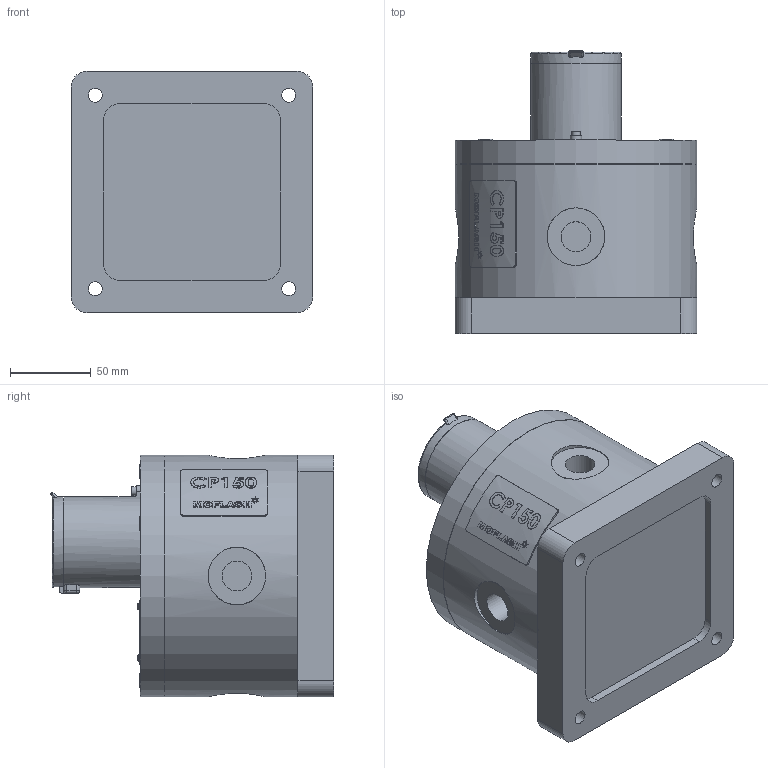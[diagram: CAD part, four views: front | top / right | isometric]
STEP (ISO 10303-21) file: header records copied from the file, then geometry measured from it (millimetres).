
FILE_DESCRIPTION (( 'STEP AP214' ), '1' );
FILE_NAME ('Moflash CP150.STEP', '2015-10-21T09:55:47', ( '' ), ( '' ), 'SwSTEP 2.0', 'SolidWorks 2015', '' );
FILE_SCHEMA (( 'AUTOMOTIVE_DESIGN' ));
Length unit declared in the file: millimetre
Products named in the file (1): Moflash CP150
Bounding box: 150 x 175.74 x 150 mm (x, y, z)
Volume: 2257701.2 mm3; surface area: 181528.2 mm2
Topology: 16 solids, 16 shells, 964 faces, 2407 edges, 1570 vertices
Faces by surface type: plane 572, bspline 240, cylinder 115, torus 23, cone 14
Full cylindrical faces by diameter (mm): 3 x2, 4 x5, 5 x6, 5.5 x1, 5.55 x6, 6 x6, 8.5 x6, 8.8 x10, 14.3 x4, 18.5 x4, 35.75 x4, 54.4 x1, 56.4 x2, 56.6 x1, 146 x1, 150 x2
Entity records: 59006 total; most frequent: CARTESIAN_POINT 27369, ORIENTED_EDGE 4574, DIRECTION 3427, EDGE_CURVE 2287, VERTEX_POINT 1548, LINE 1373, VECTOR 1373, EDGE_LOOP 1183
